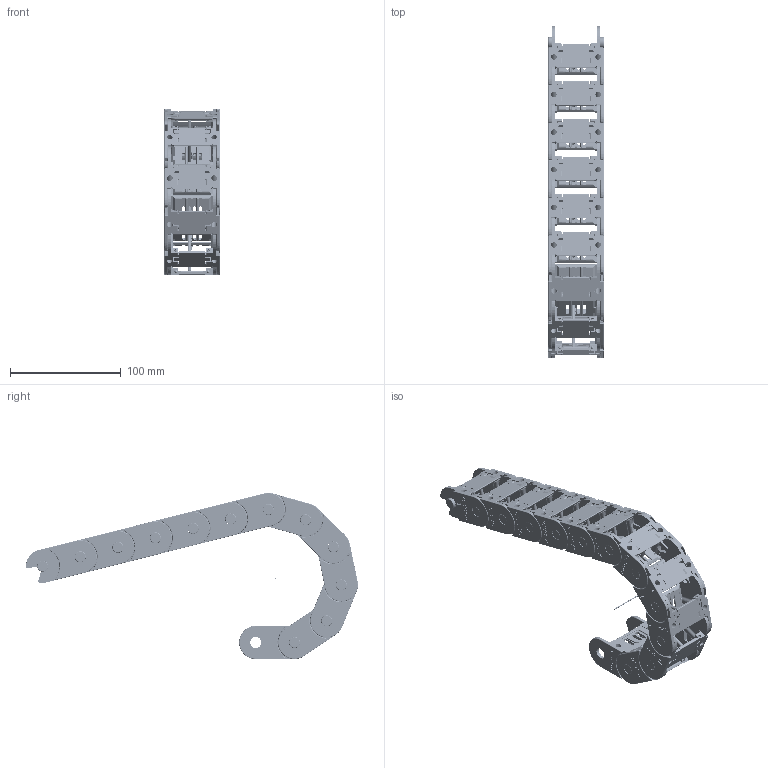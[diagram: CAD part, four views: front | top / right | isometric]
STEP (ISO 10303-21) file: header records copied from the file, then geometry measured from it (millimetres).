
FILE_DESCRIPTION((''),'2;1');
FILE_NAME('C:\Uebbing\PARAMETERKETTEN\KOLIBRI\Kol_30_050_1\KOLIBRI 30_050_1_R60.stp','2012-03-05T08:15:38',('Uebbing'),(''),'Autodesk Inventor 10','Autodesk Inventor 10','');
FILE_SCHEMA(('AUTOMOTIVE_DESIGN { 1 0 10303 214 1 1 1 1 }'));
Length unit declared in the file: millimetre
Products named in the file (6): KOLIBRI 30_050_1_PARAMETRISCH; Achse; Kol_30_050_1; PZ 30 Stecksteg; Kol 30_050_1 Lasche; Kol 30_050_0 Klappsteg
Assembly tree (16 placements, depth 3):
  KOLIBRI 30_050_1_PARAMETRISCH
    Achse
    Kol_30_050_1  x12
      PZ 30 Stecksteg
      Kol 30_050_1 Lasche
      Kol 30_050_0 Klappsteg
Bounding box: 50 x 299.55 x 149.97 mm (x, y, z)
Volume: 177413.3 mm3; surface area: 179872.1 mm2
Topology: 37 solids, 37 shells, 11463 faces, 31324 edges, 20523 vertices
Faces by surface type: plane 5774, bspline 2760, cylinder 2269, torus 516, cone 96, sphere 48
Full cylindrical faces by diameter (mm): 1 x1, 1.166 x12, 2.048 x12, 2.8 x96, 5.1 x24, 10 x12, 10.1 x24
Entity records: 33090 total; most frequent: CARTESIAN_POINT 9821, ORIENTED_EDGE 5142, DIRECTION 4194, EDGE_CURVE 2571, VERTEX_POINT 1699, VECTOR 1612, LINE 1612, AXIS2_PLACEMENT_3D 1291
